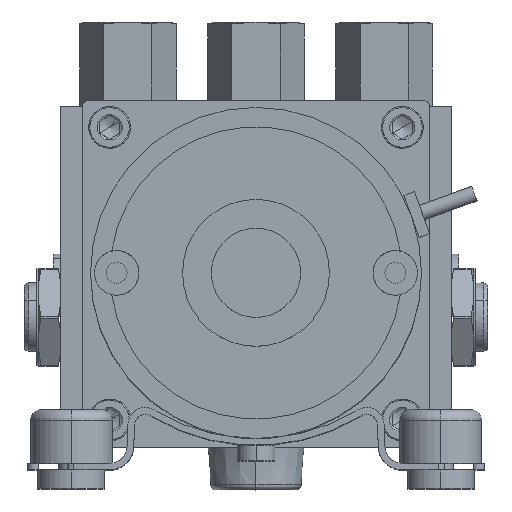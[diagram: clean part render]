
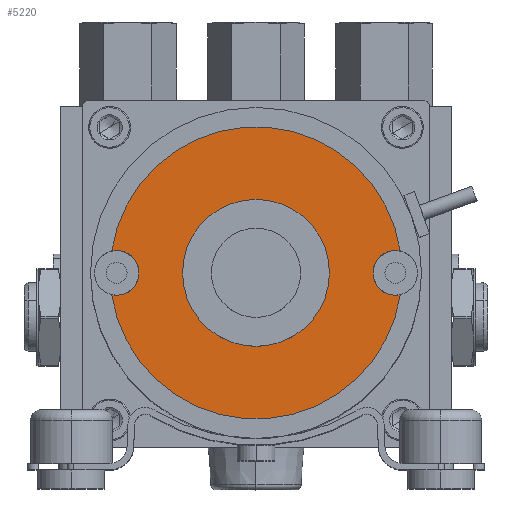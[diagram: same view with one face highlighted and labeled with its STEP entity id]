
A CAD part, top view. The second image highlights one B-rep face of the part: STEP entity #5220.
In plain terms, the highlighted planar face has unit normal (0, 0, 1).
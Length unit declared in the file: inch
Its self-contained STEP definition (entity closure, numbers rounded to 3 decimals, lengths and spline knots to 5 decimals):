
#215 = DIRECTION ( 'NONE',  ( 1., 0., 0. ) ) ;
#353 = DIRECTION ( 'NONE',  ( 1., 0., 0. ) ) ;
#830 = CARTESIAN_POINT ( 'NONE',  ( 1.29544, 0.19477, 5.472 ) ) ;
#2463 = CIRCLE ( 'NONE', #33806, 1.31 ) ;
#2497 = EDGE_CURVE ( 'NONE', #34602, #17552, #2463, .T. ) ;
#3550 = CARTESIAN_POINT ( 'NONE',  ( 1.25, 0., 5.472 ) ) ;
#3715 = CIRCLE ( 'NONE', #26557, 0.2 ) ;
#4483 = CIRCLE ( 'NONE', #33849, 0.2 ) ;
#5220 = ADVANCED_FACE ( 'NONE', ( #21778, #12398 ), #18858, .T. ) ;
#5374 = VERTEX_POINT ( 'NONE', #18954 ) ;
#6349 = EDGE_CURVE ( 'NONE', #5374, #23662, #40825, .T. ) ;
#6562 = ORIENTED_EDGE ( 'NONE', *, *, #14252, .T. ) ;
#6736 = DIRECTION ( 'NONE',  ( 1., 0., 0. ) ) ;
#7772 = ORIENTED_EDGE ( 'NONE', *, *, #25897, .T. ) ;
#8395 = AXIS2_PLACEMENT_3D ( 'NONE', #18419, #40487, #21543 ) ;
#9584 = DIRECTION ( 'NONE',  ( 0., 0., -1. ) ) ;
#10072 = CARTESIAN_POINT ( 'NONE',  ( 1.29544, -0.19477, 5.472 ) ) ;
#10427 = EDGE_CURVE ( 'NONE', #32529, #15849, #39779, .T. ) ;
#10511 = CIRCLE ( 'NONE', #16035, 0.659 ) ;
#11484 = VERTEX_POINT ( 'NONE', #38400 ) ;
#11788 = CARTESIAN_POINT ( 'NONE',  ( 1.25, 0., 5.472 ) ) ;
#12398 = FACE_OUTER_BOUND ( 'NONE', #35739, .T. ) ;
#12866 = DIRECTION ( 'NONE',  ( 0., 0., 1. ) ) ;
#13849 = ORIENTED_EDGE ( 'NONE', *, *, #29346, .F. ) ;
#14252 = EDGE_CURVE ( 'NONE', #17552, #34383, #4483, .T. ) ;
#14989 = DIRECTION ( 'NONE',  ( 1., 0., 0. ) ) ;
#15818 = DIRECTION ( 'NONE',  ( 0., 0., 1. ) ) ;
#15849 = VERTEX_POINT ( 'NONE', #23313 ) ;
#16035 = AXIS2_PLACEMENT_3D ( 'NONE', #31771, #12866, #34928 ) ;
#16783 = CARTESIAN_POINT ( 'NONE',  ( 0., 0., 5.472 ) ) ;
#17391 = AXIS2_PLACEMENT_3D ( 'NONE', #34696, #15818, #37876 ) ;
#17552 = VERTEX_POINT ( 'NONE', #33768 ) ;
#18419 = CARTESIAN_POINT ( 'NONE',  ( 0., 0., 5.472 ) ) ;
#18858 = PLANE ( 'NONE',  #17391 ) ;
#18954 = CARTESIAN_POINT ( 'NONE',  ( -1.29544, -0.19477, 5.472 ) ) ;
#19235 = DIRECTION ( 'NONE',  ( 0., 0., -1. ) ) ;
#19386 = DIRECTION ( 'NONE',  ( 0., 0., 1. ) ) ;
#19968 = DIRECTION ( 'NONE',  ( 1., 0., 0. ) ) ;
#20309 = EDGE_LOOP ( 'NONE', ( #40781, #13849 ) ) ;
#20445 = ORIENTED_EDGE ( 'NONE', *, *, #2497, .T. ) ;
#21403 = EDGE_CURVE ( 'NONE', #11484, #34602, #23802, .T. ) ;
#21543 = DIRECTION ( 'NONE',  ( 1., 0., 0. ) ) ;
#21778 = FACE_BOUND ( 'NONE', #20309, .T. ) ;
#23313 = CARTESIAN_POINT ( 'NONE',  ( 0.659, 0., 5.472 ) ) ;
#23662 = VERTEX_POINT ( 'NONE', #10072 ) ;
#23802 = CIRCLE ( 'NONE', #39108, 0.2 ) ;
#25681 = DIRECTION ( 'NONE',  ( 0., 0., -1. ) ) ;
#25756 = AXIS2_PLACEMENT_3D ( 'NONE', #16783, #38859, #19968 ) ;
#25897 = EDGE_CURVE ( 'NONE', #23662, #11484, #33678, .T. ) ;
#26230 = ORIENTED_EDGE ( 'NONE', *, *, #6349, .T. ) ;
#26557 = AXIS2_PLACEMENT_3D ( 'NONE', #28467, #9584, #31642 ) ;
#27832 = EDGE_CURVE ( 'NONE', #34383, #5374, #3715, .T. ) ;
#28467 = CARTESIAN_POINT ( 'NONE',  ( -1.25, 0., 5.472 ) ) ;
#29346 = EDGE_CURVE ( 'NONE', #15849, #32529, #10511, .T. ) ;
#29462 = CARTESIAN_POINT ( 'NONE',  ( -0.659, 0., 5.472 ) ) ;
#30192 = CARTESIAN_POINT ( 'NONE',  ( -1.05, 0., 5.472 ) ) ;
#30391 = AXIS2_PLACEMENT_3D ( 'NONE', #11788, #33871, #14989 ) ;
#31642 = DIRECTION ( 'NONE',  ( 1., 0., 0. ) ) ;
#31771 = CARTESIAN_POINT ( 'NONE',  ( 0., 0., 5.472 ) ) ;
#32529 = VERTEX_POINT ( 'NONE', #29462 ) ;
#33678 = CIRCLE ( 'NONE', #30391, 0.2 ) ;
#33768 = CARTESIAN_POINT ( 'NONE',  ( -1.29544, 0.19477, 5.472 ) ) ;
#33806 = AXIS2_PLACEMENT_3D ( 'NONE', #38275, #19386, #353 ) ;
#33849 = AXIS2_PLACEMENT_3D ( 'NONE', #38141, #19235, #215 ) ;
#33871 = DIRECTION ( 'NONE',  ( 0., 0., -1. ) ) ;
#34383 = VERTEX_POINT ( 'NONE', #30192 ) ;
#34602 = VERTEX_POINT ( 'NONE', #830 ) ;
#34696 = CARTESIAN_POINT ( 'NONE',  ( 0., 0., 5.472 ) ) ;
#34928 = DIRECTION ( 'NONE',  ( 1., 0., 0. ) ) ;
#35043 = ORIENTED_EDGE ( 'NONE', *, *, #21403, .T. ) ;
#35739 = EDGE_LOOP ( 'NONE', ( #20445, #6562, #40659, #26230, #7772, #35043 ) ) ;
#37876 = DIRECTION ( 'NONE',  ( 1., 0., 0. ) ) ;
#38141 = CARTESIAN_POINT ( 'NONE',  ( -1.25, 0., 5.472 ) ) ;
#38275 = CARTESIAN_POINT ( 'NONE',  ( 0., 0., 5.472 ) ) ;
#38400 = CARTESIAN_POINT ( 'NONE',  ( 1.05, 0., 5.472 ) ) ;
#38859 = DIRECTION ( 'NONE',  ( 0., 0., 1. ) ) ;
#39108 = AXIS2_PLACEMENT_3D ( 'NONE', #3550, #25681, #6736 ) ;
#39779 = CIRCLE ( 'NONE', #25756, 0.659 ) ;
#40487 = DIRECTION ( 'NONE',  ( 0., 0., 1. ) ) ;
#40659 = ORIENTED_EDGE ( 'NONE', *, *, #27832, .T. ) ;
#40781 = ORIENTED_EDGE ( 'NONE', *, *, #10427, .F. ) ;
#40825 = CIRCLE ( 'NONE', #8395, 1.31 ) ;
